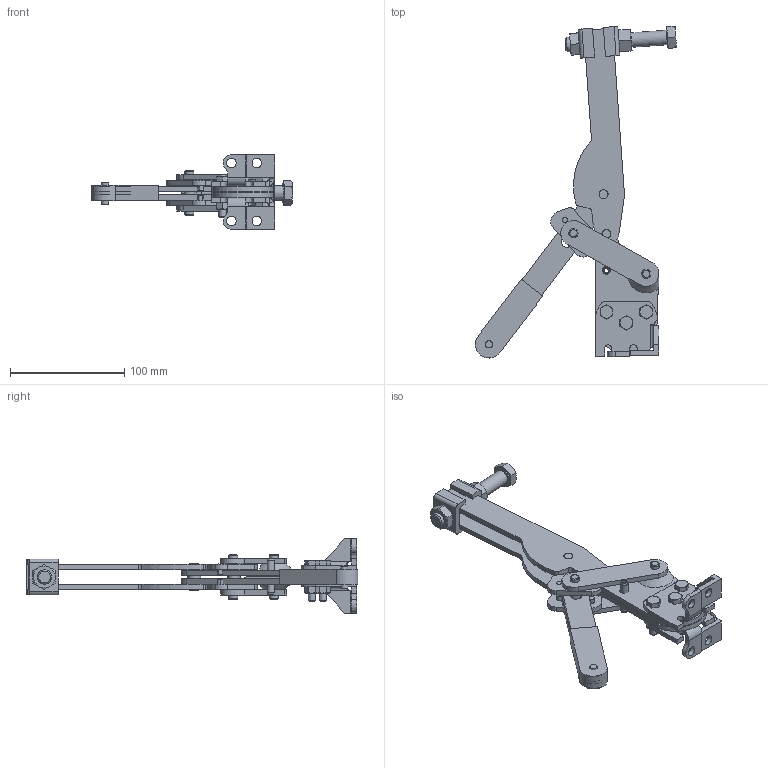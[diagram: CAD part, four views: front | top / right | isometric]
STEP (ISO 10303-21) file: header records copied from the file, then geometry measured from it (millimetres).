
FILE_DESCRIPTION((' '),'2;1');
FILE_NAME('C:\Users\Nick\Desktop\CASB-800\3D\CASB-800 Open.stp','2015-08-14T15:52:32',(' '),(' '),' ','ACIS',' ');
FILE_SCHEMA(('CONFIG_CONTROL_DESIGN'));
Length unit declared in the file: inch
Products named in the file (35): C:\Users\Nick\Desktop\CASB-800\3D\CASB-800 Open.stp; Body1; Body2; Body3; Body4; Body5; Body6; Body7; Body8; Body9; Body10; Body11; Body12; Body13; Body14; Body15; Body16; Body17; Body18; Body19; Body20; Body21; Body22; Body23; Body24; Body25; Body26; Body27; Body28; Body29; Body30; Body31; Body32; Body33; Body34
Assembly tree (34 placements, depth 2):
  C:\Users\Nick\Desktop\CASB-800\3D\CASB-800 Open.stp
    Body1
    Body2
    Body3
    Body4
    Body5
    Body6
    Body7
    Body8
    Body9
    Body10
    Body11
    Body12
    Body13
    Body14
    Body15
    Body16
    Body17
    Body18
    Body19
    Body20
    Body21
    Body22
    Body23
    Body24
    Body25
    Body26
    Body27
    Body28
    Body29
    Body30
    Body31
    Body32
    Body33
    Body34
Bounding box: 176.25 x 290.76 x 65.23 mm (x, y, z)
Volume: 231316 mm3; surface area: 136522.6 mm2
Topology: 34 solids, 34 shells, 626 faces, 1515 edges, 975 vertices
Faces by surface type: plane 316, cylinder 191, cone 107, sphere 8, torus 4
Full cylindrical faces by diameter (mm): 4.724 x4, 4.762 x4, 4.978 x3, 6.248 x2, 6.35 x5, 6.401 x8, 6.426 x2, 6.604 x3, 7.772 x4, 7.899 x4, 7.976 x6, 7.988 x2, 8.026 x4, 8.382 x4, 9.398 x4, 9.474 x2, 9.525 x3, 9.576 x4, 9.601 x2, 10.592 x2, 11.1 x2, 11.112 x3, 12.7 x1, 13.106 x2, 17.145 x1
Entity records: 22897 total; most frequent: CARTESIAN_POINT 3650, DIRECTION 3122, ORIENTED_EDGE 2778, EDGE_CURVE 1389, AXIS2_PLACEMENT_3D 1252, VERTEX_POINT 955, EDGE_LOOP 852, FACE_OUTER_BOUND 626
